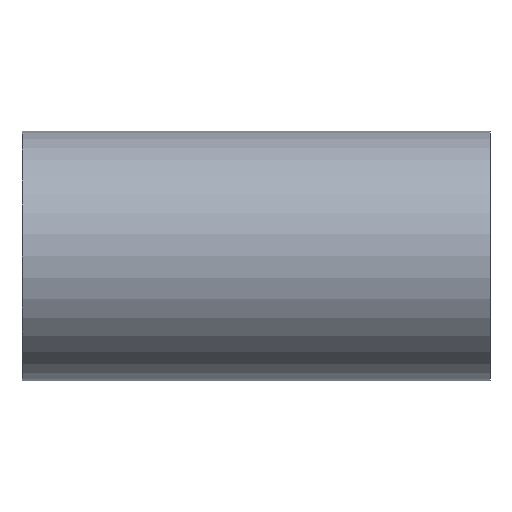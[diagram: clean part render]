
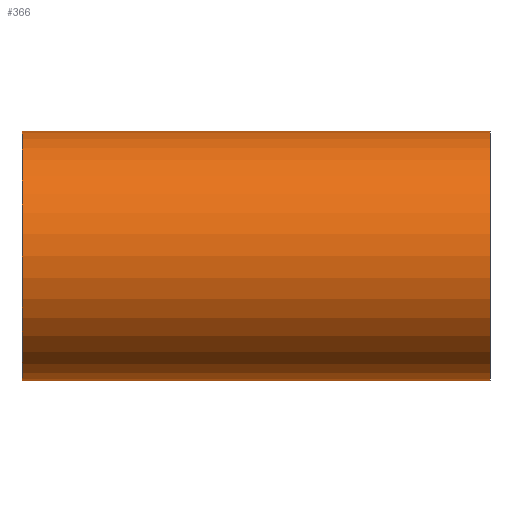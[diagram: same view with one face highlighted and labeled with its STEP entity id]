
A CAD part, front view. The second image highlights one B-rep face of the part: STEP entity #366.
In plain terms, the highlighted cylindrical face has radius 76.2 mm (diameter 152.4 mm), a partial arc.
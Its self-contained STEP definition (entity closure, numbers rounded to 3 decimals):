
#12 = AXIS2_PLACEMENT_3D ( 'NONE', #1076, #441, #453 ) ;
#82 = DIRECTION ( 'NONE',  ( 1., 0., 0. ) ) ;
#111 = VERTEX_POINT ( 'NONE', #307 ) ;
#115 = VECTOR ( 'NONE', #1075, 1000. ) ;
#179 = ORIENTED_EDGE ( 'NONE', *, *, #751, .T. ) ;
#219 = EDGE_LOOP ( 'NONE', ( #956, #239, #643, #179 ) ) ;
#235 = VERTEX_POINT ( 'NONE', #1169 ) ;
#239 = ORIENTED_EDGE ( 'NONE', *, *, #890, .T. ) ;
#307 = CARTESIAN_POINT ( 'NONE',  ( -142.9, 0., -76.2 ) ) ;
#318 = FACE_OUTER_BOUND ( 'NONE', #219, .T. ) ;
#366 = ADVANCED_FACE ( 'NONE', ( #318 ), #772, .T. ) ;
#441 = DIRECTION ( 'NONE',  ( -1., 0., 0. ) ) ;
#453 = DIRECTION ( 'NONE',  ( 0., 0., -1. ) ) ;
#455 = DIRECTION ( 'NONE',  ( 0., 0., -1. ) ) ;
#495 = EDGE_CURVE ( 'NONE', #111, #545, #609, .T. ) ;
#519 = VERTEX_POINT ( 'NONE', #716 ) ;
#545 = VERTEX_POINT ( 'NONE', #724 ) ;
#573 = CARTESIAN_POINT ( 'NONE',  ( -142.9, 0., 0. ) ) ;
#596 = LINE ( 'NONE', #1018, #115 ) ;
#609 = LINE ( 'NONE', #846, #888 ) ;
#616 = AXIS2_PLACEMENT_3D ( 'NONE', #1080, #987, #965 ) ;
#643 = ORIENTED_EDGE ( 'NONE', *, *, #495, .T. ) ;
#677 = EDGE_CURVE ( 'NONE', #235, #519, #596, .T. ) ;
#716 = CARTESIAN_POINT ( 'NONE',  ( 142.9, 0., 76.2 ) ) ;
#724 = CARTESIAN_POINT ( 'NONE',  ( 142.9, 0., -76.2 ) ) ;
#751 = EDGE_CURVE ( 'NONE', #545, #519, #1039, .T. ) ;
#760 = AXIS2_PLACEMENT_3D ( 'NONE', #573, #82, #455 ) ;
#772 = CYLINDRICAL_SURFACE ( 'NONE', #760, 76.2 ) ;
#846 = CARTESIAN_POINT ( 'NONE',  ( -142.9, 0., -76.2 ) ) ;
#888 = VECTOR ( 'NONE', #900, 1000. ) ;
#890 = EDGE_CURVE ( 'NONE', #235, #111, #949, .T. ) ;
#900 = DIRECTION ( 'NONE',  ( 1., 0., 0. ) ) ;
#949 = CIRCLE ( 'NONE', #616, 76.2 ) ;
#956 = ORIENTED_EDGE ( 'NONE', *, *, #677, .F. ) ;
#965 = DIRECTION ( 'NONE',  ( 0., 0., -1. ) ) ;
#987 = DIRECTION ( 'NONE',  ( 1., 0., 0. ) ) ;
#1018 = CARTESIAN_POINT ( 'NONE',  ( -142.9, 0., 76.2 ) ) ;
#1039 = CIRCLE ( 'NONE', #12, 76.2 ) ;
#1075 = DIRECTION ( 'NONE',  ( 1., 0., 0. ) ) ;
#1076 = CARTESIAN_POINT ( 'NONE',  ( 142.9, 0., 0. ) ) ;
#1080 = CARTESIAN_POINT ( 'NONE',  ( -142.9, 0., 0. ) ) ;
#1169 = CARTESIAN_POINT ( 'NONE',  ( -142.9, 0., 76.2 ) ) ;
